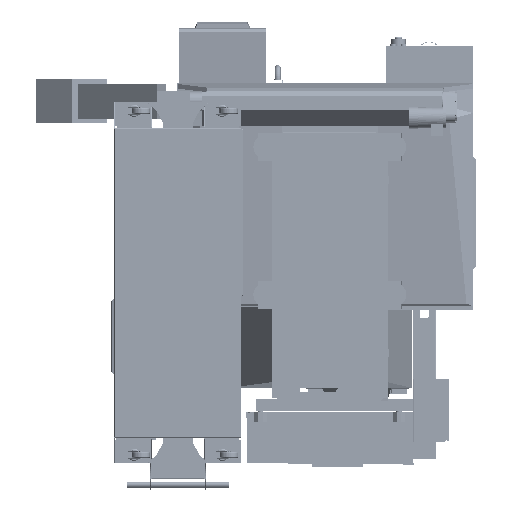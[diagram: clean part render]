
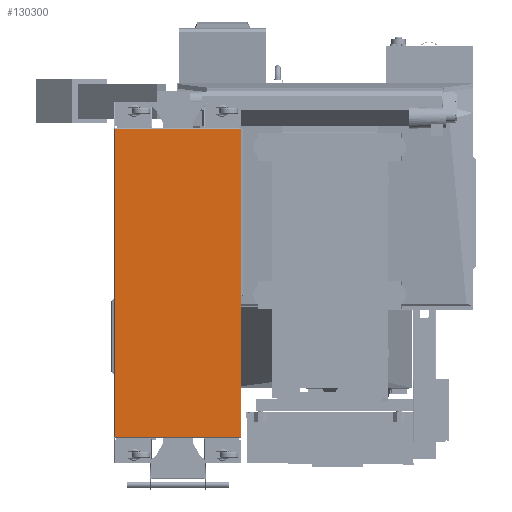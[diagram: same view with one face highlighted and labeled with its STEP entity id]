
A CAD part, front view. The second image highlights one B-rep face of the part: STEP entity #130300.
In plain terms, the highlighted planar face has unit normal (0, -1, 0).
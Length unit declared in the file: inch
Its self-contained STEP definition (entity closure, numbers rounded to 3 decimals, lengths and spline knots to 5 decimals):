
#6117 = EDGE_CURVE ( 'NONE', #144097, #45078, #712213, .T. ) ;
#21370 = LINE ( 'NONE', #43882, #141999 ) ;
#22733 = VERTEX_POINT ( 'NONE', #128603 ) ;
#43882 = CARTESIAN_POINT ( 'NONE',  ( -53.66116, -34.294, -37.5335 ) ) ;
#45078 = VERTEX_POINT ( 'NONE', #553098 ) ;
#128603 = CARTESIAN_POINT ( 'NONE',  ( -26.3487, -34.294, 29.2685 ) ) ;
#130300 = ADVANCED_FACE ( 'NONE', ( #706324 ), #418166, .T. ) ;
#130723 = DIRECTION ( 'NONE',  ( -1., 0., 0. ) ) ;
#131966 = ORIENTED_EDGE ( 'NONE', *, *, #578900, .T. ) ;
#141999 = VECTOR ( 'NONE', #453547, 39.37008 ) ;
#143093 = CARTESIAN_POINT ( 'NONE',  ( -53.6513, -34.294, 29.2685 ) ) ;
#144097 = VERTEX_POINT ( 'NONE', #143093 ) ;
#197944 = DIRECTION ( 'NONE',  ( 0., -1., 0. ) ) ;
#227438 = VECTOR ( 'NONE', #130723, 39.37008 ) ;
#227639 = AXIS2_PLACEMENT_3D ( 'NONE', #361266, #197944, #372527 ) ;
#289358 = VECTOR ( 'NONE', #719723, 39.37008 ) ;
#361266 = CARTESIAN_POINT ( 'NONE',  ( -40., -34.294, -4.1325 ) ) ;
#372527 = DIRECTION ( 'NONE',  ( -1., 0., 0. ) ) ;
#415772 = DIRECTION ( 'NONE',  ( 0., 0., 1. ) ) ;
#418166 = PLANE ( 'NONE',  #227639 ) ;
#420340 = CARTESIAN_POINT ( 'NONE',  ( -53.6513, -34.294, 29.27836 ) ) ;
#452991 = ORIENTED_EDGE ( 'NONE', *, *, #746511, .T. ) ;
#453547 = DIRECTION ( 'NONE',  ( 1., 0., 0. ) ) ;
#480198 = CARTESIAN_POINT ( 'NONE',  ( -26.3487, -34.294, -37.54336 ) ) ;
#488311 = CARTESIAN_POINT ( 'NONE',  ( -26.3487, -34.294, -37.5335 ) ) ;
#548044 = EDGE_CURVE ( 'NONE', #643104, #22733, #650809, .T. ) ;
#553098 = CARTESIAN_POINT ( 'NONE',  ( -53.6513, -34.294, -37.5335 ) ) ;
#578900 = EDGE_CURVE ( 'NONE', #22733, #144097, #718474, .T. ) ;
#580592 = EDGE_LOOP ( 'NONE', ( #131966, #631620, #452991, #671010 ) ) ;
#631620 = ORIENTED_EDGE ( 'NONE', *, *, #6117, .T. ) ;
#643104 = VERTEX_POINT ( 'NONE', #488311 ) ;
#650386 = CARTESIAN_POINT ( 'NONE',  ( -26.33884, -34.294, 29.2685 ) ) ;
#650809 = LINE ( 'NONE', #480198, #731098 ) ;
#671010 = ORIENTED_EDGE ( 'NONE', *, *, #548044, .T. ) ;
#706324 = FACE_OUTER_BOUND ( 'NONE', #580592, .T. ) ;
#712213 = LINE ( 'NONE', #420340, #289358 ) ;
#718474 = LINE ( 'NONE', #650386, #227438 ) ;
#719723 = DIRECTION ( 'NONE',  ( 0., 0., -1. ) ) ;
#731098 = VECTOR ( 'NONE', #415772, 39.37008 ) ;
#746511 = EDGE_CURVE ( 'NONE', #45078, #643104, #21370, .T. ) ;
